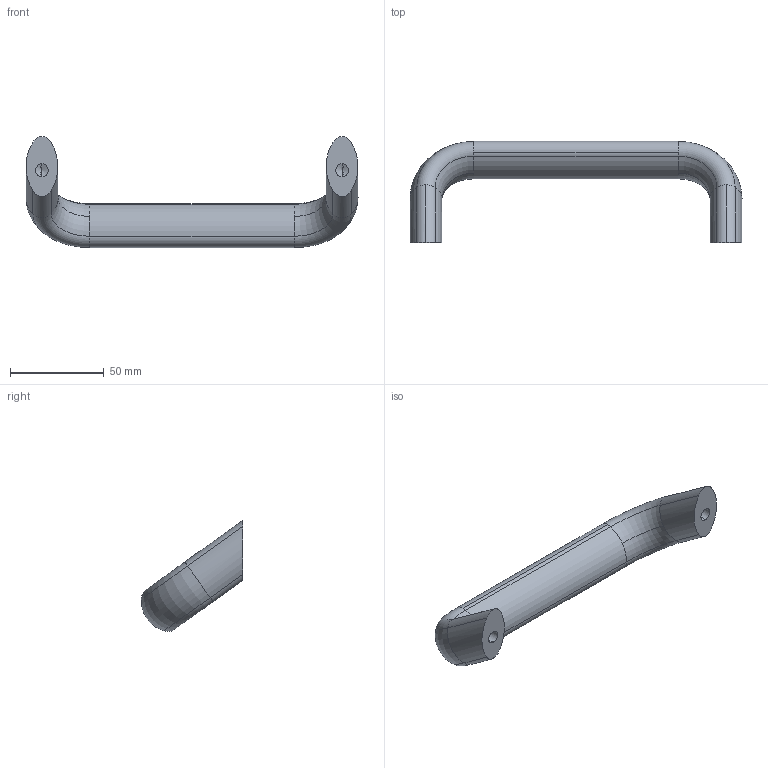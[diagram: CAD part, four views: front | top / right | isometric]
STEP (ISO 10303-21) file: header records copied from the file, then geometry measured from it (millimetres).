
FILE_DESCRIPTION (( 'STEP AP203' ), '1' );
FILE_NAME ('gn565-2_160.step', '2010-10-26T09:58:43', ( '_' ), ( '_' ), 'SwSTEP 2.0', 'SolidWorks 2010', '' );
FILE_SCHEMA (( 'CONFIG_CONTROL_DESIGN' ));
Length unit declared in the file: millimetre
Products named in the file (1): gn565-2_160
Bounding box: 177 x 53.97 x 59.21 mm (x, y, z)
Volume: 82950.4 mm3; surface area: 18064.3 mm2
Topology: 1 solids, 1 shells, 35 faces, 79 edges, 44 vertices
Faces by surface type: cylinder 19, torus 10, cone 4, plane 2
Entity records: 1024 total; most frequent: CARTESIAN_POINT 185, DIRECTION 179, ORIENTED_EDGE 150, AXIS2_PLACEMENT_3D 78, EDGE_CURVE 75, VERTEX_POINT 44, CIRCLE 42, EDGE_LOOP 37
